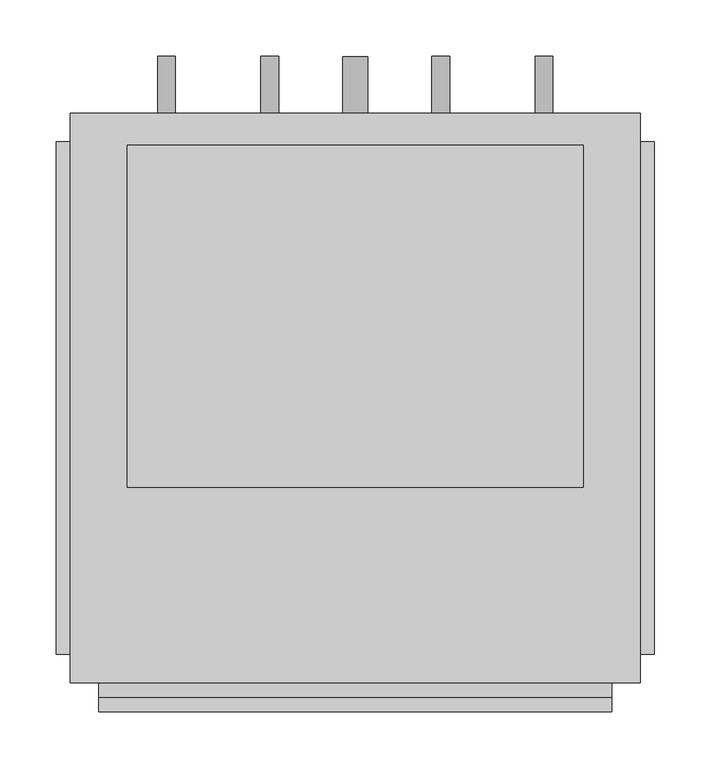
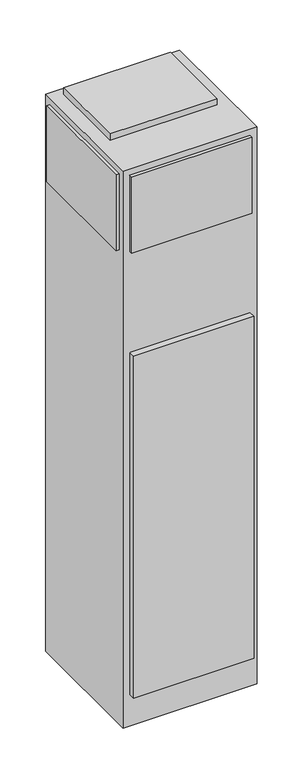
"""IFC4 building model written with IfcOpenShell, lengths in millimetres: proxy geometry, Concealed_Universal_Modular_Fan_Coil_Unit_-_42SUB_-_CARRIER_-_4-Pipe_-_NoRisers_2022 : Size 06 - 277v/60Hz/1Ph - 4/1 Coil."""

from ifc_helpers import new_model, si_unit, point, frame, frame_2d, origin, origin_with_axes, place, context, project, spatial, polyline, circle_curve, trimmed, segment, composite_curve, outline, extrude, source, transform, mapped, element, save


def mechanical_equipment_6c74cc56(model_context):
    return source(origin(), model_context, "Body", "SweptSolid", [
        extrude(outline(composite_curve([segment(trimmed(circle_curve(frame_2d((990.6, 574.675)), 7.9375), [point((990.6, 566.7375))], [point((990.6, 582.6125))], False, "CARTESIAN"), True, "CONTINUOUS"), segment(trimmed(circle_curve(frame_2d((990.6, 574.675)), 7.9375), [point((990.6, 582.6125))], [point((990.6, 566.7375))], False, "CARTESIAN"), True, "CONTINUOUS")], self_intersect=False)), frame((0.0, 244.475, 0.0), z_axis=(0.0, 1.0, 0.0), x_axis=(0.0, 0.0, 1.0)), (0.0, 0.0, 1.0), 50.8),
        extrude(outline(composite_curve([segment(trimmed(circle_curve(frame_2d((990.6, 482.6)), 7.9375), [point((990.6, 474.6625))], [point((990.6, 490.5375))], False, "CARTESIAN"), True, "CONTINUOUS"), segment(trimmed(circle_curve(frame_2d((990.6, 482.6)), 7.9375), [point((990.6, 490.5375))], [point((990.6, 474.6625))], False, "CARTESIAN"), True, "CONTINUOUS")], self_intersect=False)), frame((0.0, 244.475, 0.0), z_axis=(0.0, 1.0, 0.0), x_axis=(0.0, 0.0, 1.0)), (0.0, 0.0, 1.0), 50.8),
        extrude(outline(composite_curve([segment(trimmed(circle_curve(frame_2d((990.6, 330.2)), 7.9375), [point((990.6, 322.2625))], [point((990.6, 338.1375))], False, "CARTESIAN"), True, "CONTINUOUS"), segment(trimmed(circle_curve(frame_2d((990.6, 330.2)), 7.9375), [point((990.6, 338.1375))], [point((990.6, 322.2625))], False, "CARTESIAN"), True, "CONTINUOUS")], self_intersect=False)), frame((0.0, 244.475, 0.0), z_axis=(0.0, 1.0, 0.0), x_axis=(0.0, 0.0, 1.0)), (0.0, 0.0, 1.0), 50.8),
        extrude(outline(composite_curve([segment(trimmed(circle_curve(frame_2d((990.6, 238.125)), 7.9375), [point((990.6, 230.1875))], [point((990.6, 246.0625))], False, "CARTESIAN"), True, "CONTINUOUS"), segment(trimmed(circle_curve(frame_2d((990.6, 238.125)), 7.9375), [point((990.6, 246.0625))], [point((990.6, 230.1875))], False, "CARTESIAN"), True, "CONTINUOUS")], self_intersect=False)), frame((0.0, 244.475, 0.0), z_axis=(0.0, 1.0, 0.0), x_axis=(0.0, 0.0, 1.0)), (0.0, 0.0, 1.0), 50.8),
        extrude(outline(composite_curve([segment(trimmed(circle_curve(frame_2d((76.2, 406.4)), 11.1125), [point((76.2, 395.2875))], [point((76.2, 417.5125))], False, "CARTESIAN"), True, "CONTINUOUS"), segment(trimmed(circle_curve(frame_2d((76.2, 406.4)), 11.1125), [point((76.2, 417.5125))], [point((76.2, 395.2875))], False, "CARTESIAN"), True, "CONTINUOUS")], self_intersect=False)), frame((0.0, 244.475, 0.0), z_axis=(0.0, 1.0, 0.0), x_axis=(0.0, 0.0, 1.0)), (0.0, 0.0, 1.0), 50.8),
        extrude(outline(polyline([(609.6, 215.9), (609.6, -88.9), (203.2, -88.9), (203.2, 215.9), (609.6, 215.9)])), frame((0.0, 0.0, 2235.2), z_axis=(0.0, 0.0, 1.0), x_axis=(1.0, 0.0, 0.0)), (0.0, 0.0, 1.0), 25.4),
        extrude(outline(polyline([(139.7, -238.125), (139.7, 219.075), (152.4, 219.075), (152.4, -238.125), (139.7, -238.125)])), frame((0.0, 0.0, 1905.0), z_axis=(0.0, 0.0, 1.0), x_axis=(1.0, 0.0, 0.0)), (0.0, 0.0, 1.0), 304.8),
        extrude(outline(polyline([(673.1, 219.075), (673.1, -238.125), (660.4, -238.125), (660.4, 219.075), (673.1, 219.075)])), frame((0.0, 0.0, 1905.0), z_axis=(0.0, 0.0, 1.0), x_axis=(1.0, 0.0, 0.0)), (0.0, 0.0, 1.0), 304.8),
        extrude(outline(polyline([(635.0, -276.225), (177.8, -276.225), (177.8, -263.525), (635.0, -263.525), (635.0, -276.225)])), frame((0.0, 0.0, 1905.0), z_axis=(0.0, 0.0, 1.0), x_axis=(1.0, 0.0, 0.0)), (0.0, 0.0, 1.0), 304.8),
        extrude(outline(polyline([(635.0, -288.925), (177.8, -288.925), (177.8, -263.525), (635.0, -263.525), (635.0, -288.925)])), frame((0.0, 0.0, 127.0), z_axis=(0.0, 0.0, 1.0), x_axis=(1.0, 0.0, 0.0)), (0.0, 0.0, 1.0), 1371.6),
        extrude(outline(polyline([(660.4, 244.475), (660.4, -263.525), (152.4, -263.525), (152.4, 244.475), (660.4, 244.475)])), origin_with_axes(), (0.0, 0.0, 1.0), 2235.2),
    ])


if __name__ == "__main__":
    model = new_model("IFC4")
    model_context = context("Model", 3, world=origin())
    ifc_project = project(units=[si_unit("LENGTHUNIT", "METRE", prefix="MILLI")], contexts=[model_context])
    site = spatial("IfcSite", under=ifc_project)
    building = spatial("IfcBuilding", under=site)
    placement = place(None, origin())
    mechanical_equipment_shape = mechanical_equipment_6c74cc56(model_context)
    element("IfcBuildingElementProxy", 1, Name="Concealed_Universal_Modular_Fan_Coil_Unit_-_42SUB_-_CARRIER_-_4-Pipe_-_NoRisers_2022 : Size 06 - 277v/60Hz/1Ph - 4/1 Coil", ObjectType="Concealed_Universal_Modular_Fan_Coil_Unit_-_42SUB_-_CARRIER_-_4-Pipe_-_NoRisers_2022 : Size 06 - 277v/60Hz/1Ph - 4/1 Coil", at=placement, inside=building, context=model_context, shape_type="MappedRepresentation", body=[
        mapped(mechanical_equipment_shape, transform((0.0, 0.0, 0.0), x_axis=(1.0, 0.0, 0.0), y_axis=(0.0, 1.0, 0.0), z_axis=(0.0, 0.0, 1.0))),
    ])
    save(model, "model.ifc")
